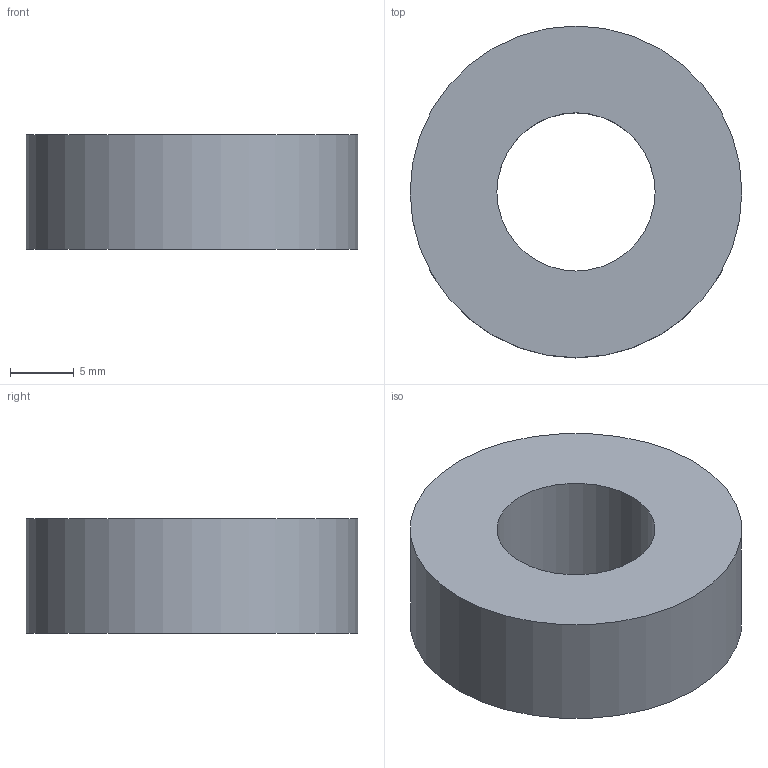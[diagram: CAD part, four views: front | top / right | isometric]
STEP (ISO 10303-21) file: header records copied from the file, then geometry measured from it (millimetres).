
FILE_DESCRIPTION(('Open CASCADE Model'),'2;1');
FILE_NAME('Open CASCADE Shape Model','2026-10-04T01:02:30',('Author'),( 'Open CASCADE'),'Open CASCADE STEP processor 8.0','Open CASCADE 8.0' ,'Unknown');
FILE_SCHEMA(('AUTOMOTIVE_DESIGN { 1 0 10303 214 1 1 1 1 }'));
Length unit declared in the file: millimetre
Products named in the file (1): Open CASCADE STEP translator 8.0 198
Bounding box: 26 x 26 x 9 mm (x, y, z)
Volume: 3691.5 mm3; surface area: 1906.1 mm2
Topology: 1 solids, 1 shells, 4 faces, 6 edges, 4 vertices
Faces by surface type: cylinder 2, plane 2
Full cylindrical faces by diameter (mm): 12.4 x1, 26 x1
Entity records: 186 total; most frequent: DIRECTION 32, CARTESIAN_POINT 27, ORIENTED_EDGE 12, PCURVE 12, DEFINITIONAL_REPRESENTATION 12, LINE 10, VECTOR 10, AXIS2_PLACEMENT_3D 9
